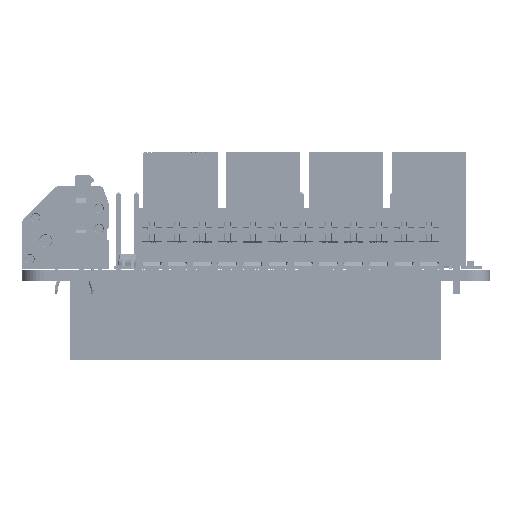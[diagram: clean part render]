
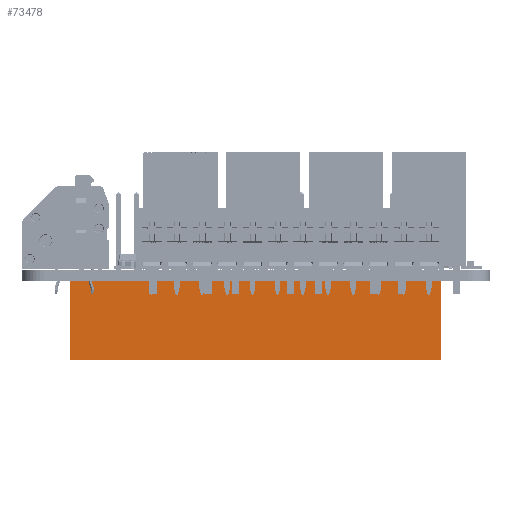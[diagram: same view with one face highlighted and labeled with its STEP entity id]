
A CAD part, front view. The second image highlights one B-rep face of the part: STEP entity #73478.
In plain terms, the highlighted planar face has unit normal (0, -1, 0).
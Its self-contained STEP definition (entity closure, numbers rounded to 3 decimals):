
#71991 = VERTEX_POINT('',#71992);
#71992 = CARTESIAN_POINT('',(6.7,50.02,0.095));
#71998 = EDGE_CURVE('',#71991,#71999,#72001,.T.);
#71999 = VERTEX_POINT('',#72000);
#72000 = CARTESIAN_POINT('',(6.7,50.02,-10.955));
#72001 = LINE('',#72002,#72003);
#72002 = CARTESIAN_POINT('',(6.7,50.02,0.095));
#72003 = VECTOR('',#72004,1.);
#72004 = DIRECTION('',(0.,0.,-1.));
#72075 = EDGE_CURVE('',#71999,#72076,#72078,.T.);
#72076 = VERTEX_POINT('',#72077);
#72077 = CARTESIAN_POINT('',(58.16,50.02,-10.955));
#72078 = LINE('',#72079,#72080);
#72079 = CARTESIAN_POINT('',(6.7,50.02,-10.955));
#72080 = VECTOR('',#72081,1.);
#72081 = DIRECTION('',(1.,0.,0.));
#73478 = ADVANCED_FACE('',(#73479),#73497,.T.);
#73479 = FACE_BOUND('',#73480,.T.);
#73480 = EDGE_LOOP('',(#73481,#73489,#73490,#73491));
#73481 = ORIENTED_EDGE('',*,*,#73482,.F.);
#73482 = EDGE_CURVE('',#71991,#73483,#73485,.T.);
#73483 = VERTEX_POINT('',#73484);
#73484 = CARTESIAN_POINT('',(58.16,50.02,0.095));
#73485 = LINE('',#73486,#73487);
#73486 = CARTESIAN_POINT('',(6.7,50.02,0.095));
#73487 = VECTOR('',#73488,1.);
#73488 = DIRECTION('',(1.,0.,0.));
#73489 = ORIENTED_EDGE('',*,*,#71998,.T.);
#73490 = ORIENTED_EDGE('',*,*,#72075,.T.);
#73491 = ORIENTED_EDGE('',*,*,#73492,.F.);
#73492 = EDGE_CURVE('',#73483,#72076,#73493,.T.);
#73493 = LINE('',#73494,#73495);
#73494 = CARTESIAN_POINT('',(58.16,50.02,0.095));
#73495 = VECTOR('',#73496,1.);
#73496 = DIRECTION('',(0.,0.,-1.));
#73497 = PLANE('',#73498);
#73498 = AXIS2_PLACEMENT_3D('',#73499,#73500,#73501);
#73499 = CARTESIAN_POINT('',(6.7,50.02,0.095));
#73500 = DIRECTION('',(0.,-1.,0.));
#73501 = DIRECTION('',(0.,0.,-1.));
